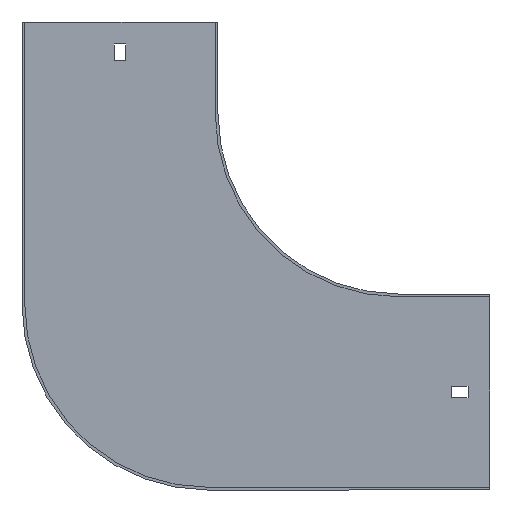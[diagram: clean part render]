
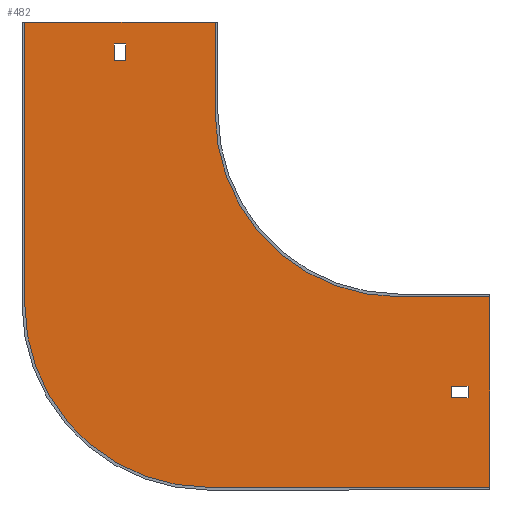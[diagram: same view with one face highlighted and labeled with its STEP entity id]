
A CAD part, front view. The second image highlights one B-rep face of the part: STEP entity #482.
In plain terms, the highlighted planar face has unit normal (0, -1, 0).
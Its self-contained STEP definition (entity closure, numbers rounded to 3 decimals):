
#3 = DIRECTION ( 'NONE',  ( -1., 0., 0. ) ) ;
#6 = ORIENTED_EDGE ( 'NONE', *, *, #48, .F. ) ;
#26 = ORIENTED_EDGE ( 'NONE', *, *, #293, .T. ) ;
#48 = EDGE_CURVE ( 'NONE', #538, #645, #461, .T. ) ;
#49 = VERTEX_POINT ( 'NONE', #387 ) ;
#50 = CARTESIAN_POINT ( 'NONE',  ( 29., -1.5, -155.25 ) ) ;
#56 = LINE ( 'NONE', #413, #577 ) ;
#63 = DIRECTION ( 'NONE',  ( 1., 0., 0. ) ) ;
#67 = CARTESIAN_POINT ( 'NONE',  ( -204., -1.5, -104. ) ) ;
#71 = CARTESIAN_POINT ( 'NONE',  ( 0., -1.5, 0. ) ) ;
#74 = VECTOR ( 'NONE', #3, 1000. ) ;
#81 = CARTESIAN_POINT ( 'NONE',  ( 0., -1.5, -100. ) ) ;
#85 = DIRECTION ( 'NONE',  ( 0., 1., 0. ) ) ;
#89 = CARTESIAN_POINT ( 'NONE',  ( -100., -1.5, 0. ) ) ;
#96 = EDGE_CURVE ( 'NONE', #158, #248, #306, .T. ) ;
#104 = VERTEX_POINT ( 'NONE', #664 ) ;
#107 = EDGE_CURVE ( 'NONE', #449, #538, #713, .T. ) ;
#112 = VECTOR ( 'NONE', #682, 1000. ) ;
#114 = VECTOR ( 'NONE', #810, 1000. ) ;
#125 = ORIENTED_EDGE ( 'NONE', *, *, #852, .F. ) ;
#140 = EDGE_LOOP ( 'NONE', ( #620, #340, #182, #467, #712, #243, #700, #6 ) ) ;
#143 = AXIS2_PLACEMENT_3D ( 'NONE', #71, #476, #181 ) ;
#147 = CARTESIAN_POINT ( 'NONE',  ( -155.25, -1.5, 0. ) ) ;
#149 = ORIENTED_EDGE ( 'NONE', *, *, #207, .T. ) ;
#151 = DIRECTION ( 'NONE',  ( 0., -1., 0. ) ) ;
#156 = VECTOR ( 'NONE', #407, 1000. ) ;
#158 = VERTEX_POINT ( 'NONE', #50 ) ;
#162 = EDGE_CURVE ( 'NONE', #380, #49, #56, .T. ) ;
#168 = EDGE_CURVE ( 'NONE', #170, #104, #539, .T. ) ;
#170 = VERTEX_POINT ( 'NONE', #346 ) ;
#181 = DIRECTION ( 'NONE',  ( 0., 0., -1. ) ) ;
#182 = ORIENTED_EDGE ( 'NONE', *, *, #633, .F. ) ;
#190 = VERTEX_POINT ( 'NONE', #670 ) ;
#196 = CARTESIAN_POINT ( 'NONE',  ( -205.5, -1.5, 50. ) ) ;
#199 = FACE_OUTER_BOUND ( 'NONE', #140, .T. ) ;
#201 = VECTOR ( 'NONE', #474, 1000. ) ;
#202 = EDGE_CURVE ( 'NONE', #846, #158, #748, .T. ) ;
#207 = EDGE_CURVE ( 'NONE', #508, #170, #811, .T. ) ;
#228 = ORIENTED_EDGE ( 'NONE', *, *, #168, .T. ) ;
#233 = CARTESIAN_POINT ( 'NONE',  ( 50., -1.5, -100. ) ) ;
#235 = EDGE_LOOP ( 'NONE', ( #228, #656, #26, #149 ) ) ;
#243 = ORIENTED_EDGE ( 'NONE', *, *, #550, .F. ) ;
#248 = VERTEX_POINT ( 'NONE', #616 ) ;
#249 = CARTESIAN_POINT ( 'NONE',  ( 0., -1.5, -100. ) ) ;
#260 = EDGE_CURVE ( 'NONE', #190, #449, #757, .T. ) ;
#264 = PLANE ( 'NONE',  #143 ) ;
#265 = EDGE_CURVE ( 'NONE', #49, #353, #478, .T. ) ;
#267 = DIRECTION ( 'NONE',  ( 0., 0., -1. ) ) ;
#278 = DIRECTION ( 'NONE',  ( 0., 0., -1. ) ) ;
#285 = VECTOR ( 'NONE', #393, 1000. ) ;
#288 = VERTEX_POINT ( 'NONE', #81 ) ;
#293 = EDGE_CURVE ( 'NONE', #808, #508, #621, .T. ) ;
#296 = CIRCLE ( 'NONE', #791, 100. ) ;
#298 = ORIENTED_EDGE ( 'NONE', *, *, #688, .F. ) ;
#299 = LINE ( 'NONE', #629, #475 ) ;
#306 = LINE ( 'NONE', #465, #361 ) ;
#315 = ORIENTED_EDGE ( 'NONE', *, *, #202, .F. ) ;
#317 = CARTESIAN_POINT ( 'NONE',  ( 38., -1.5, 0. ) ) ;
#333 = DIRECTION ( 'NONE',  ( -1., 0., 0. ) ) ;
#336 = FACE_BOUND ( 'NONE', #235, .T. ) ;
#340 = ORIENTED_EDGE ( 'NONE', *, *, #260, .F. ) ;
#341 = DIRECTION ( 'NONE',  ( 0., 0., -1. ) ) ;
#346 = CARTESIAN_POINT ( 'NONE',  ( -155.25, -1.5, 38. ) ) ;
#353 = VERTEX_POINT ( 'NONE', #782 ) ;
#358 = CARTESIAN_POINT ( 'NONE',  ( 0., -1.5, 0. ) ) ;
#361 = VECTOR ( 'NONE', #728, 1000. ) ;
#380 = VERTEX_POINT ( 'NONE', #233 ) ;
#387 = CARTESIAN_POINT ( 'NONE',  ( 50., -1.5, -204. ) ) ;
#393 = DIRECTION ( 'NONE',  ( 0., 0., -1. ) ) ;
#401 = CARTESIAN_POINT ( 'NONE',  ( 0., -1.5, 38. ) ) ;
#407 = DIRECTION ( 'NONE',  ( 0., 0., 1. ) ) ;
#408 = DIRECTION ( 'NONE',  ( 1., 0., 0. ) ) ;
#410 = DIRECTION ( 'NONE',  ( 0., 0., 1. ) ) ;
#413 = CARTESIAN_POINT ( 'NONE',  ( 50., -1.5, -98.5 ) ) ;
#429 = CIRCLE ( 'NONE', #557, 100. ) ;
#449 = VERTEX_POINT ( 'NONE', #676 ) ;
#457 = VECTOR ( 'NONE', #341, 1000. ) ;
#461 = LINE ( 'NONE', #723, #285 ) ;
#462 = CARTESIAN_POINT ( 'NONE',  ( -148.75, -1.5, 29. ) ) ;
#465 = CARTESIAN_POINT ( 'NONE',  ( 0., -1.5, -155.25 ) ) ;
#467 = ORIENTED_EDGE ( 'NONE', *, *, #265, .F. ) ;
#471 = CARTESIAN_POINT ( 'NONE',  ( -155.25, -1.5, 29. ) ) ;
#472 = VECTOR ( 'NONE', #63, 1000. ) ;
#474 = DIRECTION ( 'NONE',  ( 1., 0., 0. ) ) ;
#475 = VECTOR ( 'NONE', #571, 1000. ) ;
#476 = DIRECTION ( 'NONE',  ( 0., -1., 0. ) ) ;
#478 = LINE ( 'NONE', #555, #74 ) ;
#482 = ADVANCED_FACE ( 'NONE', ( #603, #199, #336 ), #264, .T. ) ;
#487 = CARTESIAN_POINT ( 'NONE',  ( 0., -1.5, 29. ) ) ;
#489 = DIRECTION ( 'NONE',  ( 0., 0., -1. ) ) ;
#508 = VERTEX_POINT ( 'NONE', #471 ) ;
#526 = VECTOR ( 'NONE', #333, 1000. ) ;
#534 = CARTESIAN_POINT ( 'NONE',  ( -100., -1.5, 50. ) ) ;
#536 = LINE ( 'NONE', #317, #156 ) ;
#538 = VERTEX_POINT ( 'NONE', #534 ) ;
#539 = LINE ( 'NONE', #401, #201 ) ;
#545 = CARTESIAN_POINT ( 'NONE',  ( -148.75, -1.5, 0. ) ) ;
#547 = CARTESIAN_POINT ( 'NONE',  ( 29., -1.5, 0. ) ) ;
#550 = EDGE_CURVE ( 'NONE', #288, #380, #673, .T. ) ;
#553 = CARTESIAN_POINT ( 'NONE',  ( -104., -1.5, -104. ) ) ;
#555 = CARTESIAN_POINT ( 'NONE',  ( 50., -1.5, -204. ) ) ;
#557 = AXIS2_PLACEMENT_3D ( 'NONE', #553, #85, #278 ) ;
#565 = EDGE_CURVE ( 'NONE', #104, #808, #622, .T. ) ;
#571 = DIRECTION ( 'NONE',  ( -1., 0., 0. ) ) ;
#577 = VECTOR ( 'NONE', #267, 1000. ) ;
#580 = VECTOR ( 'NONE', #408, 1000. ) ;
#601 = CARTESIAN_POINT ( 'NONE',  ( 38., -1.5, -148.75 ) ) ;
#603 = FACE_BOUND ( 'NONE', #703, .T. ) ;
#606 = CARTESIAN_POINT ( 'NONE',  ( 29., -1.5, -148.75 ) ) ;
#608 = EDGE_CURVE ( 'NONE', #645, #288, #296, .T. ) ;
#616 = CARTESIAN_POINT ( 'NONE',  ( 38., -1.5, -155.25 ) ) ;
#620 = ORIENTED_EDGE ( 'NONE', *, *, #107, .F. ) ;
#621 = LINE ( 'NONE', #487, #526 ) ;
#622 = LINE ( 'NONE', #545, #114 ) ;
#624 = ORIENTED_EDGE ( 'NONE', *, *, #96, .F. ) ;
#629 = CARTESIAN_POINT ( 'NONE',  ( 0., -1.5, -148.75 ) ) ;
#633 = EDGE_CURVE ( 'NONE', #353, #190, #429, .T. ) ;
#645 = VERTEX_POINT ( 'NONE', #89 ) ;
#656 = ORIENTED_EDGE ( 'NONE', *, *, #565, .T. ) ;
#664 = CARTESIAN_POINT ( 'NONE',  ( -148.75, -1.5, 38. ) ) ;
#670 = CARTESIAN_POINT ( 'NONE',  ( -204., -1.5, -104. ) ) ;
#673 = LINE ( 'NONE', #249, #580 ) ;
#676 = CARTESIAN_POINT ( 'NONE',  ( -204., -1.5, 50. ) ) ;
#682 = DIRECTION ( 'NONE',  ( 0., 0., 1. ) ) ;
#688 = EDGE_CURVE ( 'NONE', #851, #846, #299, .T. ) ;
#700 = ORIENTED_EDGE ( 'NONE', *, *, #608, .F. ) ;
#703 = EDGE_LOOP ( 'NONE', ( #298, #125, #624, #315 ) ) ;
#712 = ORIENTED_EDGE ( 'NONE', *, *, #162, .F. ) ;
#713 = LINE ( 'NONE', #196, #472 ) ;
#723 = CARTESIAN_POINT ( 'NONE',  ( -100., -1.5, 50. ) ) ;
#728 = DIRECTION ( 'NONE',  ( 1., 0., 0. ) ) ;
#748 = LINE ( 'NONE', #547, #457 ) ;
#757 = LINE ( 'NONE', #67, #112 ) ;
#782 = CARTESIAN_POINT ( 'NONE',  ( -104., -1.5, -204. ) ) ;
#791 = AXIS2_PLACEMENT_3D ( 'NONE', #358, #151, #489 ) ;
#808 = VERTEX_POINT ( 'NONE', #462 ) ;
#810 = DIRECTION ( 'NONE',  ( 0., 0., -1. ) ) ;
#811 = LINE ( 'NONE', #147, #816 ) ;
#816 = VECTOR ( 'NONE', #410, 1000. ) ;
#846 = VERTEX_POINT ( 'NONE', #606 ) ;
#851 = VERTEX_POINT ( 'NONE', #601 ) ;
#852 = EDGE_CURVE ( 'NONE', #248, #851, #536, .T. ) ;
